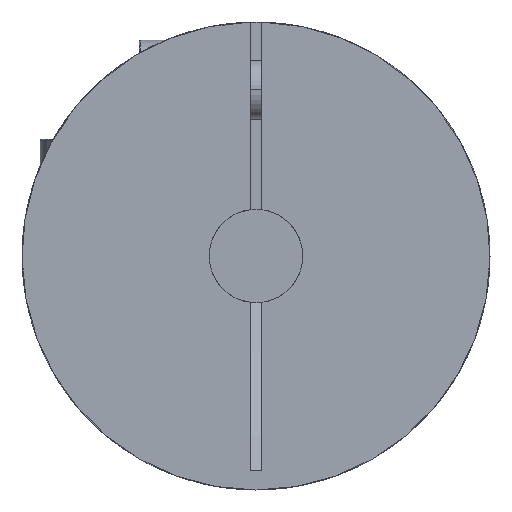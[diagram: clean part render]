
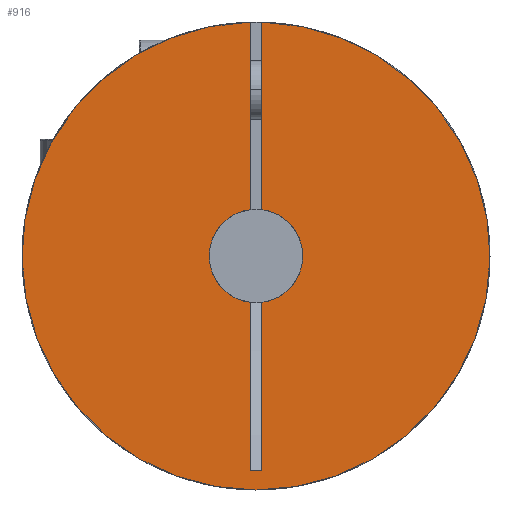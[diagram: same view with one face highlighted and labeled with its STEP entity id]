
A CAD part, left-side view. The second image highlights one B-rep face of the part: STEP entity #916.
In plain terms, the highlighted planar face has unit normal (-1, 0, 0) as drawn and (0, 0, -1) by its records, which use the part's own axes.
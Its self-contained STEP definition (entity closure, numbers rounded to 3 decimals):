
#14 = CARTESIAN_POINT ( 'NONE',  ( 0., 0., 0. ) ) ;
#19 = EDGE_CURVE ( 'NONE', #175, #1280, #3424, .T. ) ;
#61 = AXIS2_PLACEMENT_3D ( 'NONE', #219, #3440, #3138 ) ;
#134 = CARTESIAN_POINT ( 'NONE',  ( 0., 0., 0. ) ) ;
#175 = VERTEX_POINT ( 'NONE', #2619 ) ;
#180 = CARTESIAN_POINT ( 'NONE',  ( -19.994, -0.5, 0. ) ) ;
#219 = CARTESIAN_POINT ( 'NONE',  ( 0., 0., 0. ) ) ;
#336 = DIRECTION ( 'NONE',  ( -1., 0., 0. ) ) ;
#342 = AXIS2_PLACEMENT_3D ( 'NONE', #14, #1613, #750 ) ;
#349 = FACE_OUTER_BOUND ( 'NONE', #2547, .T. ) ;
#380 = VERTEX_POINT ( 'NONE', #2590 ) ;
#407 = ORIENTED_EDGE ( 'NONE', *, *, #912, .T. ) ;
#494 = VERTEX_POINT ( 'NONE', #2896 ) ;
#524 = ORIENTED_EDGE ( 'NONE', *, *, #3068, .F. ) ;
#610 = LINE ( 'NONE', #827, #1509 ) ;
#646 = EDGE_CURVE ( 'NONE', #847, #716, #843, .T. ) ;
#657 = DIRECTION ( 'NONE',  ( 0., 0., -1. ) ) ;
#676 = CIRCLE ( 'NONE', #61, 20. ) ;
#716 = VERTEX_POINT ( 'NONE', #2228 ) ;
#750 = DIRECTION ( 'NONE',  ( 1., 0., 0. ) ) ;
#827 = CARTESIAN_POINT ( 'NONE',  ( -20., 0.5, 0. ) ) ;
#843 = LINE ( 'NONE', #1908, #2755 ) ;
#847 = VERTEX_POINT ( 'NONE', #1757 ) ;
#907 = CARTESIAN_POINT ( 'NONE',  ( 0., 0., 0. ) ) ;
#912 = EDGE_CURVE ( 'NONE', #494, #380, #610, .T. ) ;
#916 = ADVANCED_FACE ( 'NONE', ( #349 ), #1912, .F. ) ;
#1021 = VECTOR ( 'NONE', #1587, 1000. ) ;
#1146 = DIRECTION ( 'NONE',  ( -1., 0., 0. ) ) ;
#1154 = CARTESIAN_POINT ( 'NONE',  ( 3.969, -0.5, 0. ) ) ;
#1278 = CARTESIAN_POINT ( 'NONE',  ( -20., -0.5, 0. ) ) ;
#1280 = VERTEX_POINT ( 'NONE', #1154 ) ;
#1392 = CIRCLE ( 'NONE', #342, 20. ) ;
#1445 = EDGE_CURVE ( 'NONE', #175, #847, #2549, .T. ) ;
#1509 = VECTOR ( 'NONE', #2709, 1000. ) ;
#1530 = CIRCLE ( 'NONE', #1985, 4. ) ;
#1554 = EDGE_CURVE ( 'NONE', #1835, #380, #1392, .T. ) ;
#1587 = DIRECTION ( 'NONE',  ( -1., 0., 0. ) ) ;
#1613 = DIRECTION ( 'NONE',  ( 0., 0., 1. ) ) ;
#1647 = AXIS2_PLACEMENT_3D ( 'NONE', #134, #657, #2014 ) ;
#1742 = EDGE_CURVE ( 'NONE', #2536, #1835, #676, .T. ) ;
#1757 = CARTESIAN_POINT ( 'NONE',  ( 18.3, 0.5, 0. ) ) ;
#1835 = VERTEX_POINT ( 'NONE', #2474 ) ;
#1908 = CARTESIAN_POINT ( 'NONE',  ( -20., 0.5, 0. ) ) ;
#1912 = PLANE ( 'NONE',  #2078 ) ;
#1985 = AXIS2_PLACEMENT_3D ( 'NONE', #907, #3265, #336 ) ;
#2014 = DIRECTION ( 'NONE',  ( -1., 0., 0. ) ) ;
#2078 = AXIS2_PLACEMENT_3D ( 'NONE', #2217, #2231, #2497 ) ;
#2157 = VECTOR ( 'NONE', #3227, 1000. ) ;
#2217 = CARTESIAN_POINT ( 'NONE',  ( 0., 0., 0. ) ) ;
#2228 = CARTESIAN_POINT ( 'NONE',  ( 3.969, 0.5, 0. ) ) ;
#2231 = DIRECTION ( 'NONE',  ( 0., 0., 1. ) ) ;
#2331 = CARTESIAN_POINT ( 'NONE',  ( 18.3, -0.5, 0. ) ) ;
#2474 = CARTESIAN_POINT ( 'NONE',  ( 20., 0., 0. ) ) ;
#2477 = VERTEX_POINT ( 'NONE', #2843 ) ;
#2497 = DIRECTION ( 'NONE',  ( 1., 0., 0. ) ) ;
#2536 = VERTEX_POINT ( 'NONE', #180 ) ;
#2547 = EDGE_LOOP ( 'NONE', ( #3095, #3236, #3006, #3039, #3056, #524, #407, #2839, #3251 ) ) ;
#2549 = LINE ( 'NONE', #2331, #2856 ) ;
#2590 = CARTESIAN_POINT ( 'NONE',  ( -19.994, 0.5, 0. ) ) ;
#2619 = CARTESIAN_POINT ( 'NONE',  ( 18.3, -0.5, 0. ) ) ;
#2709 = DIRECTION ( 'NONE',  ( -1., 0., 0. ) ) ;
#2755 = VECTOR ( 'NONE', #1146, 1000. ) ;
#2839 = ORIENTED_EDGE ( 'NONE', *, *, #1554, .F. ) ;
#2843 = CARTESIAN_POINT ( 'NONE',  ( -3.969, -0.5, 0. ) ) ;
#2856 = VECTOR ( 'NONE', #3354, 1000. ) ;
#2885 = EDGE_CURVE ( 'NONE', #1280, #2477, #1530, .T. ) ;
#2896 = CARTESIAN_POINT ( 'NONE',  ( -3.969, 0.5, 0. ) ) ;
#2955 = CARTESIAN_POINT ( 'NONE',  ( -20., -0.5, 0. ) ) ;
#3006 = ORIENTED_EDGE ( 'NONE', *, *, #19, .F. ) ;
#3039 = ORIENTED_EDGE ( 'NONE', *, *, #1445, .T. ) ;
#3056 = ORIENTED_EDGE ( 'NONE', *, *, #646, .T. ) ;
#3068 = EDGE_CURVE ( 'NONE', #494, #716, #3383, .T. ) ;
#3095 = ORIENTED_EDGE ( 'NONE', *, *, #3316, .F. ) ;
#3138 = DIRECTION ( 'NONE',  ( 1., 0., 0. ) ) ;
#3198 = LINE ( 'NONE', #1278, #1021 ) ;
#3227 = DIRECTION ( 'NONE',  ( -1., 0., 0. ) ) ;
#3236 = ORIENTED_EDGE ( 'NONE', *, *, #2885, .F. ) ;
#3251 = ORIENTED_EDGE ( 'NONE', *, *, #1742, .F. ) ;
#3265 = DIRECTION ( 'NONE',  ( 0., 0., -1. ) ) ;
#3316 = EDGE_CURVE ( 'NONE', #2477, #2536, #3198, .T. ) ;
#3354 = DIRECTION ( 'NONE',  ( 0., 1., 0. ) ) ;
#3383 = CIRCLE ( 'NONE', #1647, 4. ) ;
#3424 = LINE ( 'NONE', #2955, #2157 ) ;
#3440 = DIRECTION ( 'NONE',  ( 0., 0., 1. ) ) ;
